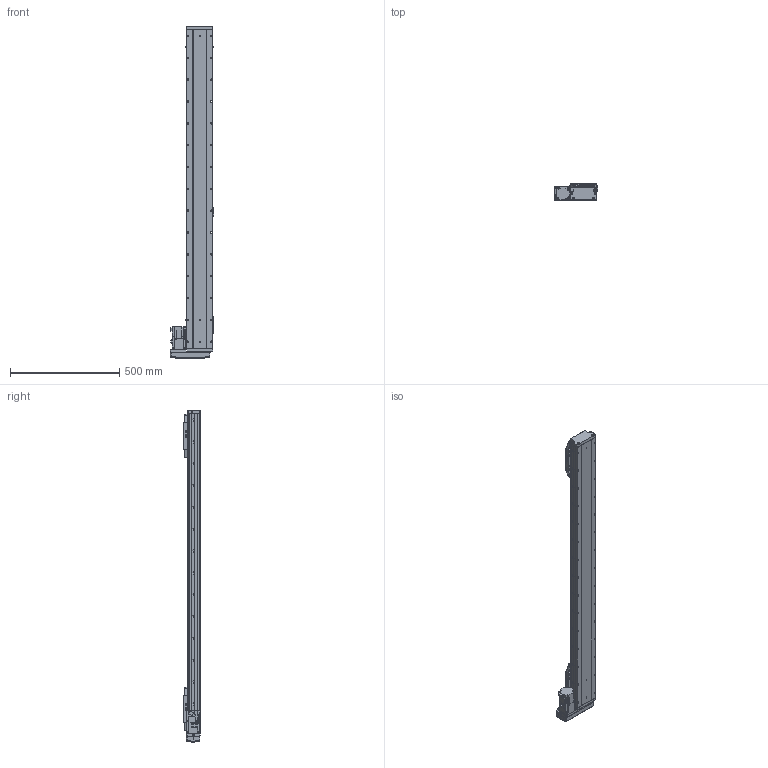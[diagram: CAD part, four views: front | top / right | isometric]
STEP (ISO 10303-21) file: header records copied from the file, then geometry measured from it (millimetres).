
FILE_DESCRIPTION (( 'STEP AP203' ), '1' );
FILE_NAME ('500.STEP', '2022-08-03T10:34:51', ( '' ), ( '' ), 'SwSTEP 2.0', 'SolidWorks 2016', '' );
FILE_SCHEMA (( 'CONFIG_CONTROL_DESIGN' ));
Length unit declared in the file: millimetre
Products named in the file (10): CTH12S-BL-菁釱; CTH12S-BL-01; CTH12S-BC-07; 500; CTH12S-BL-05; CTH12S-BL-T40; CTH12-BC-06; CTH12S-BL-HZ; CTH12-BL-02; CTH12S-BL-04
Assembly tree (15 placements, depth 2):
  500
    CTH12S-BL-菁釱
    CTH12S-BL-01
    CTH12S-BL-04
    CTH12S-BL-05  x2
    CTH12S-BL-HZ  x2
    CTH12S-BL-T40
    CTH12-BL-02
    CTH12S-BC-07  x3
    CTH12-BC-06  x3
Bounding box: 199.2 x 76 x 1520.5 mm (x, y, z)
Volume: 10077318.8 mm3; surface area: 956005.5 mm2
Topology: 36 solids, 36 shells, 2606 faces, 6795 edges, 4312 vertices
Faces by surface type: plane 1355, cylinder 766, cone 294, bspline 180, torus 7, sphere 4
Entity records: 63032 total; most frequent: CARTESIAN_POINT 17682, ORIENTED_EDGE 9324, DIRECTION 8915, EDGE_CURVE 4662, VERTEX_POINT 3010, AXIS2_PLACEMENT_3D 2990, LINE 2935, VECTOR 2935
